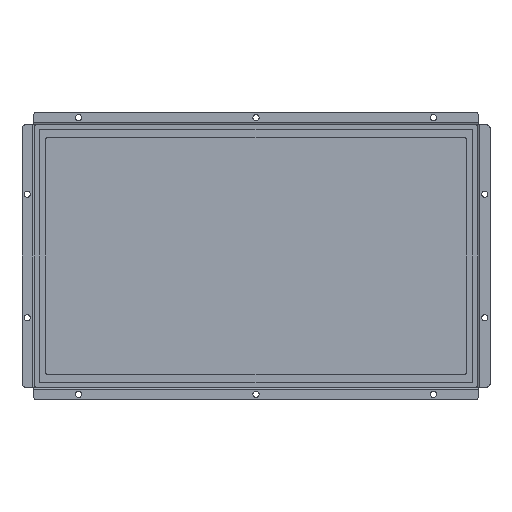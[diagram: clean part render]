
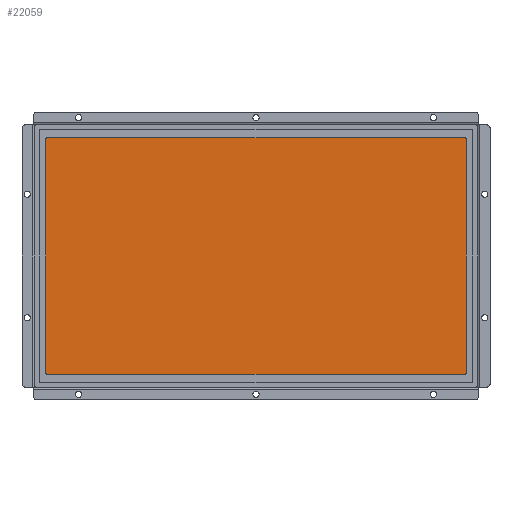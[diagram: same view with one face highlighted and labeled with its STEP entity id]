
A CAD part, front view. The second image highlights one B-rep face of the part: STEP entity #22059.
In plain terms, the highlighted planar face has unit normal (0, -1, 0).
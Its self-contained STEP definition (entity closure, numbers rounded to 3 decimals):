
#1067=CIRCLE('',#23334,2.);
#1068=CIRCLE('',#23335,2.);
#1069=CIRCLE('',#23336,2.);
#1070=CIRCLE('',#23337,2.);
#1827=FACE_OUTER_BOUND('',#3067,.T.);
#3067=EDGE_LOOP('',(#13901,#13902,#13903,#13904,#13905,#13906,#13907,#13908));
#4493=LINE('',#30730,#6526);
#4494=LINE('',#30734,#6527);
#4495=LINE('',#30738,#6528);
#4496=LINE('',#30741,#6529);
#6526=VECTOR('',#25173,10.);
#6527=VECTOR('',#25176,10.);
#6528=VECTOR('',#25179,10.);
#6529=VECTOR('',#25182,10.);
#8562=VERTEX_POINT('',#30726);
#8563=VERTEX_POINT('',#30727);
#8564=VERTEX_POINT('',#30729);
#8565=VERTEX_POINT('',#30731);
#8566=VERTEX_POINT('',#30733);
#8567=VERTEX_POINT('',#30735);
#8568=VERTEX_POINT('',#30737);
#8569=VERTEX_POINT('',#30739);
#10630=EDGE_CURVE('',#8562,#8563,#1067,.T.);
#10631=EDGE_CURVE('',#8564,#8562,#4493,.T.);
#10632=EDGE_CURVE('',#8565,#8564,#1068,.T.);
#10633=EDGE_CURVE('',#8566,#8565,#4494,.T.);
#10634=EDGE_CURVE('',#8567,#8566,#1069,.T.);
#10635=EDGE_CURVE('',#8568,#8567,#4495,.T.);
#10636=EDGE_CURVE('',#8569,#8568,#1070,.T.);
#10637=EDGE_CURVE('',#8563,#8569,#4496,.T.);
#13901=ORIENTED_EDGE('',*,*,#10630,.T.);
#13902=ORIENTED_EDGE('',*,*,#10637,.T.);
#13903=ORIENTED_EDGE('',*,*,#10636,.T.);
#13904=ORIENTED_EDGE('',*,*,#10635,.T.);
#13905=ORIENTED_EDGE('',*,*,#10634,.T.);
#13906=ORIENTED_EDGE('',*,*,#10633,.T.);
#13907=ORIENTED_EDGE('',*,*,#10632,.T.);
#13908=ORIENTED_EDGE('',*,*,#10631,.T.);
#20009=PLANE('',#23360);
#22059=ADVANCED_FACE('',(#1827),#20009,.T.);
#23334=AXIS2_PLACEMENT_3D('',#30728,#25171,#25172);
#23335=AXIS2_PLACEMENT_3D('',#30732,#25174,#25175);
#23336=AXIS2_PLACEMENT_3D('',#30736,#25177,#25178);
#23337=AXIS2_PLACEMENT_3D('',#30740,#25180,#25181);
#23360=AXIS2_PLACEMENT_3D('',#30808,#25251,#25252);
#25171=DIRECTION('center_axis',(0.,-1.,0.));
#25172=DIRECTION('ref_axis',(-1.,0.,0.));
#25173=DIRECTION('',(0.,0.,1.));
#25174=DIRECTION('center_axis',(0.,-1.,0.));
#25175=DIRECTION('ref_axis',(0.,0.,
1.));
#25176=DIRECTION('',(1.,0.,0.));
#25177=DIRECTION('center_axis',(0.,-1.,0.));
#25178=DIRECTION('ref_axis',(1.,0.,0.));
#25179=DIRECTION('',(0.,0.,-1.));
#25180=DIRECTION('center_axis',(0.,-1.,0.));
#25181=DIRECTION('ref_axis',(0.,0.,
-1.));
#25182=DIRECTION('',(-1.,0.,0.));
#25251=DIRECTION('center_axis',(0.,-1.,0.));
#25252=DIRECTION('ref_axis',(1.,0.,0.));
#30726=CARTESIAN_POINT('',(204.48,0.,113.02));
#30727=CARTESIAN_POINT('',(202.48,0.,115.02));
#30728=CARTESIAN_POINT('Origin',(202.48,0.,113.02));
#30729=CARTESIAN_POINT('',(204.48,0.,-113.02));
#30730=CARTESIAN_POINT('',(204.48,0.,-56.51));
#30731=CARTESIAN_POINT('',(202.48,0.,-115.02));
#30732=CARTESIAN_POINT('Origin',(202.48,0.,-113.02));
#30733=CARTESIAN_POINT('',(-202.48,0.,-115.02));
#30734=CARTESIAN_POINT('',(-101.24,0.,-115.02));
#30735=CARTESIAN_POINT('',(-204.48,0.,-113.02));
#30736=CARTESIAN_POINT('Origin',(-202.48,0.,-113.02));
#30737=CARTESIAN_POINT('',(-204.48,0.,113.02));
#30738=CARTESIAN_POINT('',(-204.48,0.,56.51));
#30739=CARTESIAN_POINT('',(-202.48,0.,115.02));
#30740=CARTESIAN_POINT('Origin',(-202.48,0.,113.02));
#30741=CARTESIAN_POINT('',(101.24,0.,115.02));
#30808=CARTESIAN_POINT('Origin',(0.,0.,
0.));
